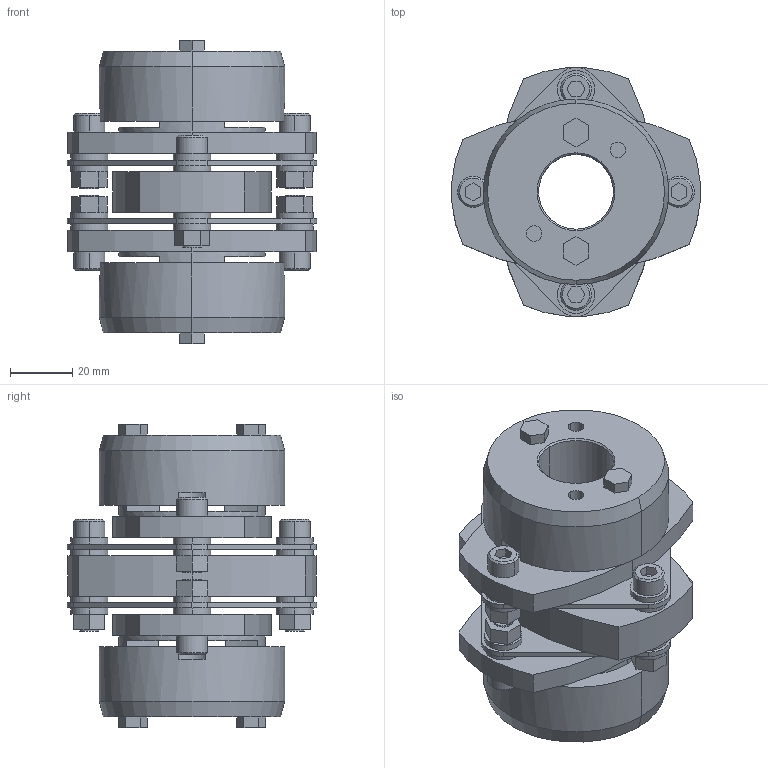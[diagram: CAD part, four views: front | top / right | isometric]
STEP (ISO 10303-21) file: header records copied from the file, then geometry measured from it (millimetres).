
FILE_DESCRIPTION((''),'2;1');
FILE_NAME('LCD-80T7-24×25.stp','2011-09-15T14:29:31',(''),(''),'AutoCAD STEP 2000i','AutoCAD 2000i',', , ');
FILE_SCHEMA(('CONFIG_CONTROL_DESIGN'));
Length unit declared in the file: millimetre
Products named in the file (10): LCD-80T7-24×24; 忣兜1; LC80T7-T024-1; LC80T7-T024; LC80T7-T022; LC80T7-T019-1; LC80T7-T019; LC80T7-T017-1; LC80T7-T017; LCD80-ITA
Assembly tree (9 placements, depth 2):
  LCD-80T7-24×24
    忣兜1
    LC80T7-T024-1
    LC80T7-T024
    LC80T7-T022
    LC80T7-T019-1
    LC80T7-T019
    LC80T7-T017-1
    LC80T7-T017
    LCD80-ITA
Bounding box: 80 x 79.95 x 97.5 mm (x, y, z)
Volume: 199506.9 mm3; surface area: 59769.7 mm2
Topology: 1 solids, 1 shells, 314 faces, 768 edges, 504 vertices
Faces by surface type: plane 166, cylinder 124, cone 24
Entity records: 9569 total; most frequent: DIRECTION 1712, CARTESIAN_POINT 1596, ORIENTED_EDGE 1536, EDGE_CURVE 768, AXIS2_PLACEMENT_3D 620, VERTEX_POINT 504, VECTOR 472, LINE 472
